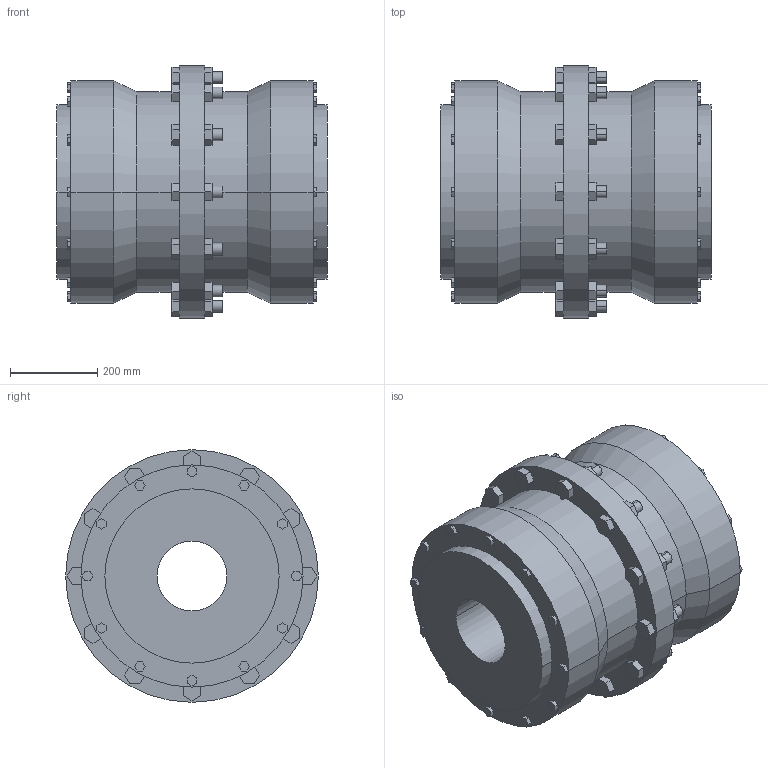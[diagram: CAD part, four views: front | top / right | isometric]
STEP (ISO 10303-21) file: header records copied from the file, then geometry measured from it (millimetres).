
FILE_DESCRIPTION((''),'2;1');
FILE_NAME('A18981000-0_ASM','2018-09-26T',('AB_Roschiwal'),('RENK AG'),'PRO/ENGINEER BY PARAMETRIC TECHNOLOGY CORPORATION, 2015440','PRO/ENGINEER BY PARAMETRIC TECHNOLOGY CORPORATION, 2015440','');
FILE_SCHEMA(('CONFIG_CONTROL_DESIGN'));
Length unit declared in the file: millimetre
Products named in the file (3): SBK250_GEHAEUSE; SBK250_NABE; A18981000-0_ASM
Assembly tree (3 placements, depth 2):
  A18981000-0_ASM
    SBK250_GEHAEUSE
    SBK250_NABE  x2
Bounding box: 620 x 580 x 580 mm (x, y, z)
Volume: 98597559.6 mm3; surface area: 3593831.5 mm2
Topology: 3 solids, 3 shells, 422 faces, 1036 edges, 688 vertices
Faces by surface type: plane 362, cylinder 56, cone 4
Entity records: 12052 total; most frequent: CARTESIAN_POINT 2100, ORIENTED_EDGE 2024, DIRECTION 1940, EDGE_CURVE 1012, VECTOR 916, LINE 916, VERTEX_POINT 672, AXIS2_PLACEMENT_3D 512
